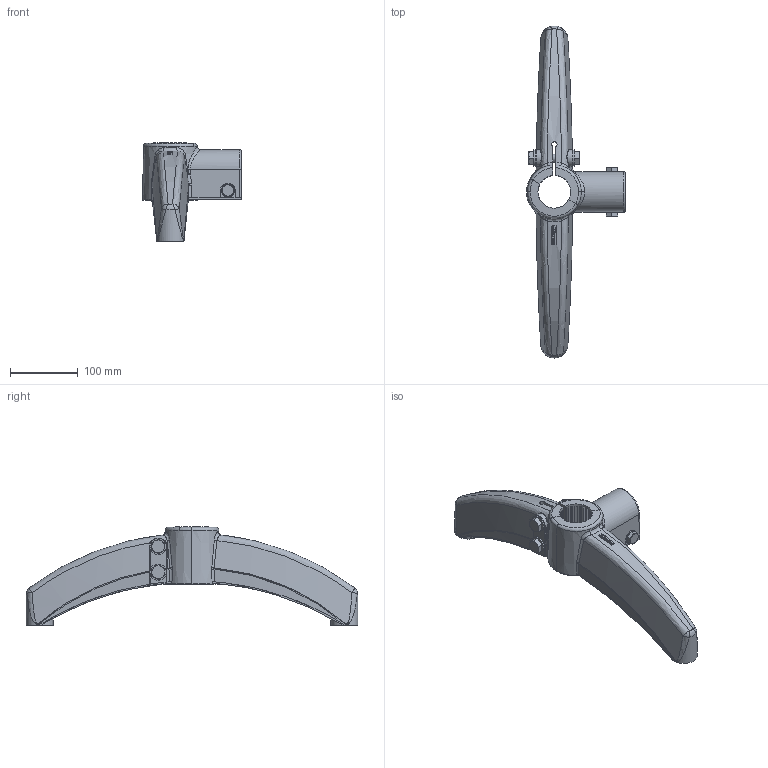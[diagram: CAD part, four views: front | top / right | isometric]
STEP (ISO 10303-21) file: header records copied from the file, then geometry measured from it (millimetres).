
FILE_DESCRIPTION(('CATIA V5 STEP Exchange'),'2;1');
FILE_NAME('X:\CODICI MOVEX\3D per clienti\Tom\P40201_01.stp','2012-10-19T07:10:31+00:00',('none'),('none'),'CATIA Version 5 Release 21 SP 1 (IN-10)','CATIA V5 STEP AP203','none');
FILE_SCHEMA(('CONFIG_CONTROL_DESIGN'));
Products named in the file (1): Product1
Assembly tree (13 placements, depth 2):
  Product1
    #58
    #111476  x2
    #111645  x4
    #111874  x2
    #112463  x2
    #113274
    #114070
Bounding box: 145.97 x 490 x 144.73 mm (x, y, z)
Volume: 827139.2 mm3; surface area: 342857.5 mm2
Topology: 13 solids, 13 shells, 2314 faces, 6165 edges, 3814 vertices
Faces by surface type: bspline 774, plane 760, cylinder 474, torus 90, cone 77, extrusion 76, sphere 63
Entity records: 114619 total; most frequent: CARTESIAN_POINT 69918, ORIENTED_EDGE 11910, EDGE_CURVE 5946, DIRECTION 4635, B_SPLINE_CURVE_WITH_KNOTS 3736, VERTEX_POINT 3718, EDGE_LOOP 2290, ADVANCED_FACE 2244
